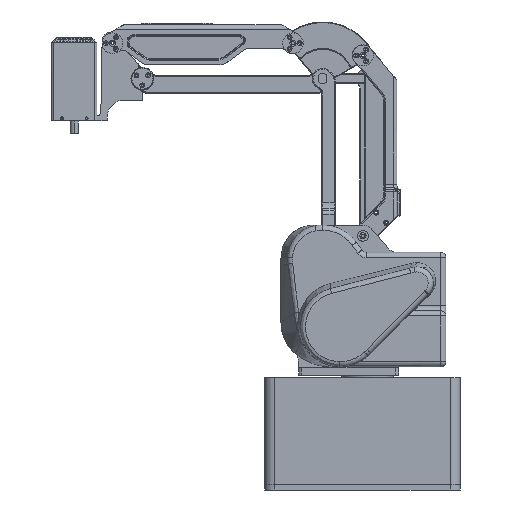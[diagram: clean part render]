
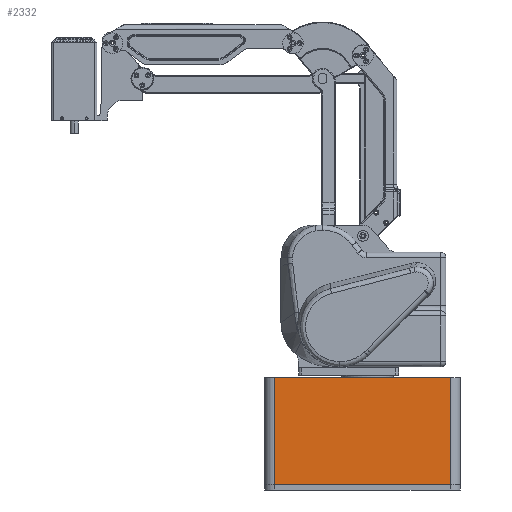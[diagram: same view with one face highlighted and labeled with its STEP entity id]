
A CAD part, front view. The second image highlights one B-rep face of the part: STEP entity #2332.
In plain terms, the highlighted planar face has unit normal (0, -1, 0).
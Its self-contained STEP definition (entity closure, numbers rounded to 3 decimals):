
#416=DIRECTION('',(1.,0.,0.));
#417=VECTOR('',#416,170.);
#418=CARTESIAN_POINT('',(-85.,-85.,109.));
#419=LINE('',#418,#417);
#553=DIRECTION('',(0.,0.,1.));
#554=VECTOR('',#553,104.);
#555=CARTESIAN_POINT('',(85.,-85.,5.));
#556=LINE('',#555,#554);
#557=DIRECTION('',(-1.,0.,0.));
#558=VECTOR('',#557,170.);
#559=CARTESIAN_POINT('',(85.,-85.,5.));
#560=LINE('',#559,#558);
#561=DIRECTION('',(0.,0.,-1.));
#562=VECTOR('',#561,104.);
#563=CARTESIAN_POINT('',(-85.,-85.,109.));
#564=LINE('',#563,#562);
#1403=CARTESIAN_POINT('',(-85.,-85.,5.));
#1404=VERTEX_POINT('',#1403);
#1405=CARTESIAN_POINT('',(85.,-85.,5.));
#1406=VERTEX_POINT('',#1405);
#1593=CARTESIAN_POINT('',(85.,-85.,109.));
#1594=VERTEX_POINT('',#1593);
#1595=CARTESIAN_POINT('',(-85.,-85.,109.));
#1596=VERTEX_POINT('',#1595);
#2320=CARTESIAN_POINT('',(-95.,-85.,0.));
#2321=DIRECTION('',(0.,-1.,0.));
#2322=DIRECTION('',(1.,0.,0.));
#2323=AXIS2_PLACEMENT_3D('',#2320,#2321,#2322);
#2324=PLANE('',#2323);
#2325=ORIENTED_EDGE('',*,*,#2142,.T.);
#2326=ORIENTED_EDGE('',*,*,#2315,.F.);
#2327=ORIENTED_EDGE('',*,*,#2050,.T.);
#2329=ORIENTED_EDGE('',*,*,#2328,.F.);
#2330=EDGE_LOOP('',(#2325,#2326,#2327,#2329));
#2331=FACE_OUTER_BOUND('',#2330,.F.);
#2332=ADVANCED_FACE('',(#2331),#2324,.T.);
#2050=EDGE_CURVE('',#1406,#1404,#560,.T.);
#2142=EDGE_CURVE('',#1596,#1594,#419,.T.);
#2315=EDGE_CURVE('',#1406,#1594,#556,.T.);
#2328=EDGE_CURVE('',#1596,#1404,#564,.T.);
